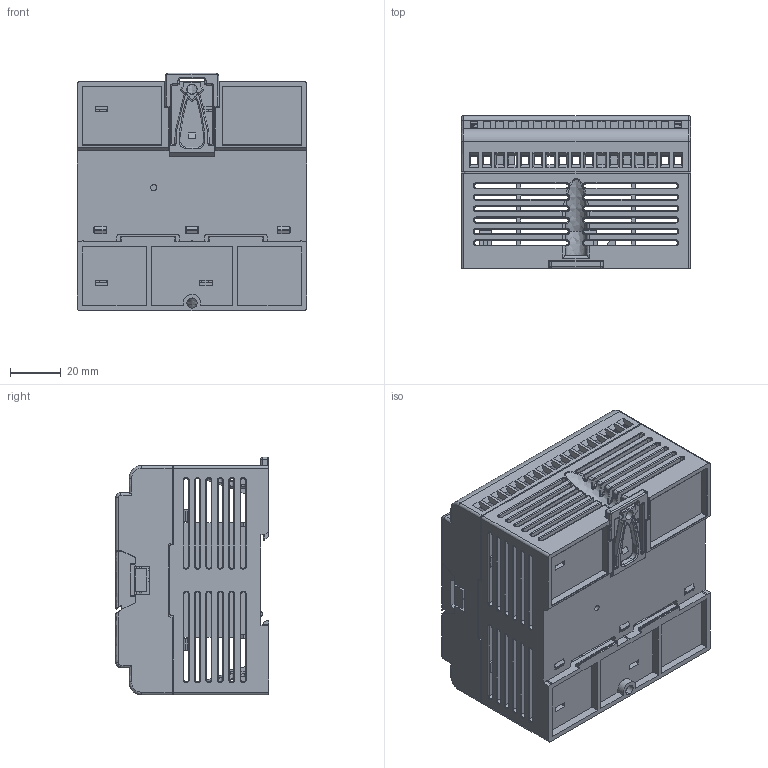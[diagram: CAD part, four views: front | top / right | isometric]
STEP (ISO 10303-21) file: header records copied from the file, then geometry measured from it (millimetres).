
FILE_DESCRIPTION(/* description */ (''),/* implementation_level */ '2;1');
FILE_NAME(/* name */ 'b1-24m-standard-20210609',/* time_stamp */ '2021-12-10T04:13:29+08:00',/* author */ (''),/* organization */ (''),/* preprocessor_version */ 'ST-DEVELOPER v16.5',/* originating_system */ '',/* authorisation */ '');
FILE_SCHEMA (('AUTOMOTIVE_DESIGN'));
Products named in the file (7): Document; B1-24M-DOWN_COVER_ASM; B1-24M-DOWN_COVER; JOIN; CV_PS; B1-24M-IO2_COVER; B1-NEW-24M-UP_COVER
Assembly tree (6 placements, depth 3):
  Document
    B1-24M-DOWN_COVER_ASM
      B1-24M-DOWN_COVER
      JOIN
    CV_PS
    B1-24M-IO2_COVER
    B1-NEW-24M-UP_COVER
Bounding box: 90 x 60.15 x 93.25 mm (x, y, z)
Volume: 43344.7 mm3; surface area: 93666.5 mm2
Topology: 4 solids, 5 shells, 2695 faces, 7665 edges, 4827 vertices
Faces by surface type: plane 1724, bspline 971
Entity records: 108630 total; most frequent: CARTESIAN_POINT 60274, ORIENTED_EDGE 15322, EDGE_CURVE 7665, B_SPLINE_CURVE_WITH_KNOTS 6269, VERTEX_POINT 4827, EDGE_LOOP 3082, ADVANCED_FACE 2695, FACE_OUTER_BOUND 2695
